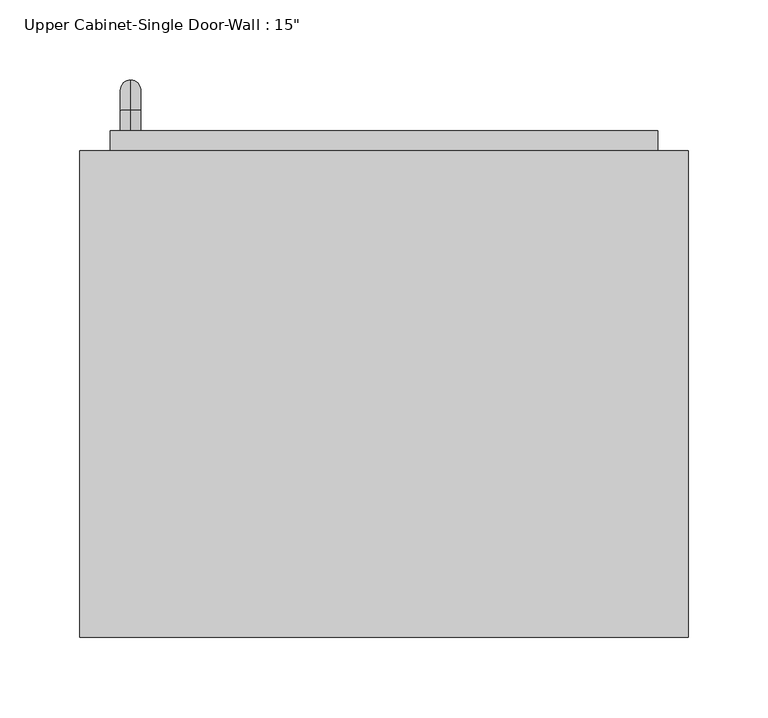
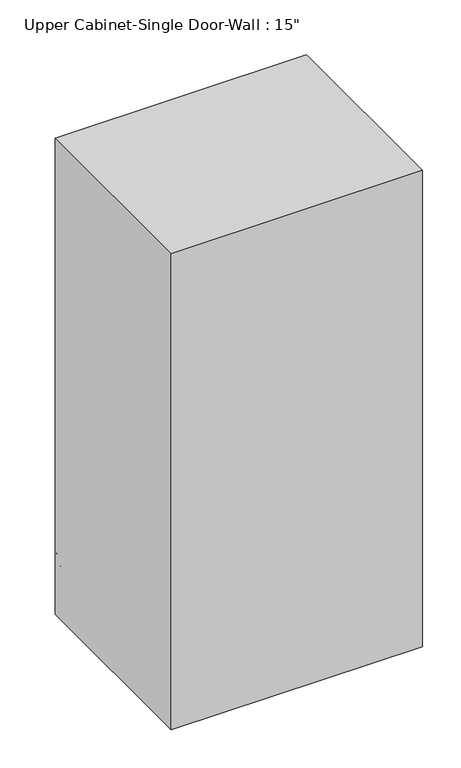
"""IFC4 building model written with IfcOpenShell, lengths in millimetres: furniture geometry."""

from ifc_helpers import new_model, si_unit, point, frame, origin, place, context, project, spatial, polyline, circle_curve, ellipse_curve, trimmed, outline, extrude, faceted_brep, source, transform, mapped, element, save
from ifc_brep_helpers import plane_surface, cylinder_surface, revolved_surface, advanced_brep


def furniture_13c6450d(model_context):
    return source(origin(), model_context, "Body", "SolidModel", [
        faceted_brep([(-160.7288372, 57.15, 2133.6), (-160.7288372, 57.15, 1371.6), (220.2711628, 57.15, 1371.6), (220.2711628, 57.15, 2133.6), (-160.7288372, 361.95, 2133.6), (220.2711628, 361.95, 2133.6), (220.2711628, 361.95, 1371.6), (-160.7288372, 361.95, 1371.6), (-141.6788372, 361.95, 2114.55), (-141.6788372, 361.95, 1390.65), (201.2211628, 361.95, 1390.65), (201.2211628, 361.95, 2114.55), (201.2211628, 76.2, 2114.55), (-141.6788372, 76.2, 2114.55), (201.2211628, 76.2, 1390.65), (-141.6788372, 76.2, 1390.65)], [[[0, 1, 2, 3]], [[4, 5, 6, 7], [8, 9, 10, 11]], [[1, 0, 4, 7]], [[2, 1, 7, 6]], [[3, 2, 6, 5]], [[0, 3, 5, 4]], [[8, 11, 12, 13]], [[11, 10, 14, 12]], [[10, 9, 15, 14]], [[9, 8, 13, 15]], [[13, 12, 14, 15]]]),
        advanced_brep(
        [(-128.9788372, 374.65, 1517.65), (-128.9788372, 374.65, 1530.35), (-128.9788372, 387.35, 1517.65), (-128.9788372, 387.35, 1530.35), (-128.9788372, 406.4, 1511.3), (-128.9788372, 393.7, 1511.3), (-128.9788372, 393.7, 1435.1), (-128.9788372, 406.4, 1435.1), (-128.9788372, 387.35, 1416.05), (-128.9788372, 387.35, 1428.75), (-128.9788372, 374.65, 1428.75), (-128.9788372, 374.65, 1416.05)],
        [
            (0, 1, circle_curve(frame((-128.9788372, 374.65, 1524.0), z_axis=(0.0, -1.0, 0.0), x_axis=(0.0, 0.0, 1.0)), 6.35)),
            (1, 0, circle_curve(frame((-128.9788372, 374.65, 1524.0), z_axis=(0.0, -1.0, 0.0), x_axis=(0.0, 0.0, 1.0)), 6.35)),
            (0, 2),
            (2, 3, circle_curve(frame((-128.9788372, 387.35, 1524.0), z_axis=(0.0, -1.0, 0.0), x_axis=(0.0, 0.0, 1.0)), 6.35)),
            (3, 1),
            (3, 2, circle_curve(frame((-128.9788372, 387.35, 1524.0), z_axis=(0.0, -1.0, 0.0), x_axis=(0.0, 0.0, 1.0)), 6.35)),
            (4, 3, circle_curve(frame((-128.9788372, 387.35, 1511.3), z_axis=(1.0, 0.0, 0.0), x_axis=(0.0, 0.0, 1.0)), 19.05)),
            (2, 5, circle_curve(frame((-128.9788372, 387.35, 1511.3), z_axis=(-1.0, 0.0, 0.0), x_axis=(0.0, 0.0, 1.0)), 6.35)),
            (5, 4, circle_curve(frame((-128.9788372, 400.05, 1511.3), z_axis=(0.0, 0.0, 1.0), x_axis=(0.0, 1.0, 0.0)), 6.35)),
            (4, 5, circle_curve(frame((-128.9788372, 400.05, 1511.3), z_axis=(0.0, 0.0, 1.0), x_axis=(0.0, 1.0, 0.0)), 6.35)),
            (5, 6),
            (6, 7, circle_curve(frame((-128.9788372, 400.05, 1435.1), z_axis=(0.0, 0.0, 1.0), x_axis=(0.0, 1.0, 0.0)), 6.35)),
            (7, 4),
            (7, 6, circle_curve(frame((-128.9788372, 400.05, 1435.1), z_axis=(0.0, 0.0, 1.0), x_axis=(0.0, 1.0, 0.0)), 6.35)),
            (8, 7, circle_curve(frame((-128.9788372, 387.35, 1435.1), z_axis=(1.0, 0.0, 0.0), x_axis=(0.0, 1.0, 0.0)), 19.05)),
            (6, 9, circle_curve(frame((-128.9788372, 387.35, 1435.1), z_axis=(-1.0, 0.0, 0.0), x_axis=(0.0, 1.0, 0.0)), 6.35)),
            (9, 8, circle_curve(frame((-128.9788372, 387.35, 1422.4), z_axis=(0.0, 1.0, 0.0), x_axis=(0.0, 0.0, -1.0)), 6.35)),
            (8, 9, circle_curve(frame((-128.9788372, 387.35, 1422.4), z_axis=(0.0, 1.0, 0.0), x_axis=(0.0, 0.0, -1.0)), 6.35)),
            (10, 11, circle_curve(frame((-128.9788372, 374.65, 1422.4), z_axis=(0.0, -1.0, 0.0), x_axis=(0.0, 0.0, -1.0)), 6.35)),
            (11, 10, circle_curve(frame((-128.9788372, 374.65, 1422.4), z_axis=(0.0, -1.0, 0.0), x_axis=(0.0, 0.0, -1.0)), 6.35)),
            (9, 10),
            (11, 8),
        ],
        [
            plane_surface(frame((-135.3288372, 374.65, 1524.0), z_axis=(0.0, -1.0, 0.0), x_axis=(0.0, 0.0, 1.0))),
            cylinder_surface(frame((-128.9788372, 374.65, 1524.0), z_axis=(0.0, -1.0, 0.0), x_axis=(0.0, 0.0, 1.0)), 6.35),
            revolved_surface(trimmed(ellipse_curve(frame((-128.9788372, 387.35, 1524.0), z_axis=(0.0, -1.0, 0.0), x_axis=(0.0, 0.0, 1.0)), 6.35, 6.35), [point((-128.9788372, 387.35, 1517.65))], [point((-128.9788372, 387.35, 1530.35))], True, "CARTESIAN"), (-128.9788372, 387.35, 1511.3), (-1.0, 0.0, 0.0)),
            revolved_surface(trimmed(ellipse_curve(frame((-128.9788372, 387.35, 1524.0), z_axis=(0.0, -1.0, 0.0), x_axis=(0.0, 0.0, 1.0)), 6.35, 6.35), [point((-128.9788372, 387.35, 1530.35))], [point((-128.9788372, 387.35, 1517.65))], True, "CARTESIAN"), (-128.9788372, 387.35, 1511.3), (-1.0, 0.0, 0.0)),
            cylinder_surface(frame((-128.9788372, 400.05, 1511.3), z_axis=(0.0, 0.0, 1.0), x_axis=(0.0, 1.0, 0.0)), 6.35),
            revolved_surface(trimmed(ellipse_curve(frame((-128.9788372, 400.05, 1435.1), z_axis=(0.0, 0.0, 1.0), x_axis=(0.0, 1.0, 0.0)), 6.35, 6.35), [point((-128.9788372, 393.7, 1435.1))], [point((-128.9788372, 406.4, 1435.1))], True, "CARTESIAN"), (-128.9788372, 387.35, 1435.1), (-1.0, 0.0, 0.0)),
            revolved_surface(trimmed(ellipse_curve(frame((-128.9788372, 400.05, 1435.1), z_axis=(0.0, 0.0, 1.0), x_axis=(0.0, 1.0, 0.0)), 6.35, 6.35), [point((-128.9788372, 406.4, 1435.1))], [point((-128.9788372, 393.7, 1435.1))], True, "CARTESIAN"), (-128.9788372, 387.35, 1435.1), (-1.0, 0.0, 0.0)),
            plane_surface(frame((-135.3288372, 374.65, 1422.4), z_axis=(0.0, -1.0, 0.0), x_axis=(0.0, 0.0, -1.0))),
            cylinder_surface(frame((-128.9788372, 387.35, 1422.4), z_axis=(0.0, 1.0, 0.0), x_axis=(0.0, 0.0, -1.0)), 6.35),
        ],
        [
            (0, [[1, 2]]),
            (1, [[-1, 3, 4, 5]]),
            (1, [[-2, -5, 6, -3]]),
            (2, [[7, -4, 8, 9]]),
            (3, [[-8, -6, -7, 10]]),
            (4, [[-9, 11, 12, 13]]),
            (4, [[-10, -13, 14, -11]]),
            (5, [[15, -12, 16, 17]]),
            (6, [[-16, -14, -15, 18]]),
            (7, [[19, 20]]),
            (8, [[-17, 21, -20, 22]]),
            (8, [[-18, -22, -19, -21]]),
        ],
    ),
        extrude(outline(polyline([(-141.6788372, 374.65), (201.2211628, 374.65), (201.2211628, 342.9), (-141.6788372, 342.9), (-141.6788372, 374.65)])), frame((0.0, 0.0, 1390.65), z_axis=(0.0, 0.0, 1.0), x_axis=(1.0, 0.0, 0.0)), (0.0, 0.0, 1.0), 723.9),
    ])


if __name__ == "__main__":
    model = new_model("IFC4")
    model_context = context("Model", 3, world=origin())
    ifc_project = project(units=[si_unit("LENGTHUNIT", "METRE", prefix="MILLI")], contexts=[model_context])
    site = spatial("IfcSite", under=ifc_project)
    building = spatial("IfcBuilding", under=site)
    placement = place(None, origin())
    furniture_shape = furniture_13c6450d(model_context)
    element("IfcFurniture", 1, ObjectType="Upper Cabinet-Single Door-Wall : 15\"", at=placement, inside=building, context=model_context, shape_type="MappedRepresentation", body=[
        mapped(furniture_shape, transform((0.0, 0.0, 0.0), x_axis=(1.0, 0.0, 0.0), y_axis=(0.0, 1.0, 0.0), z_axis=(0.0, 0.0, 1.0))),
    ])
    save(model, "model.ifc")
